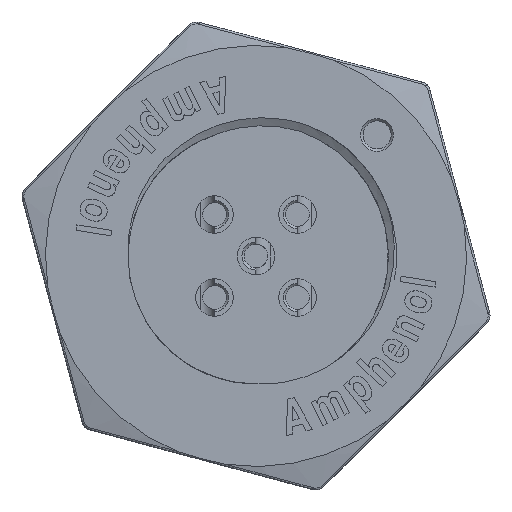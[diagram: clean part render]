
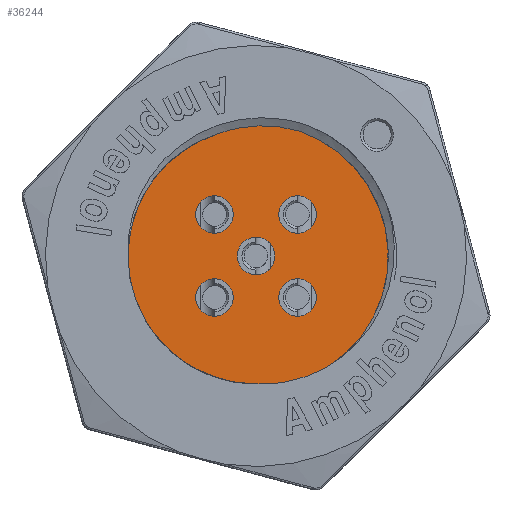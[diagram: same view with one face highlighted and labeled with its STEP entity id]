
A CAD part, left-side view. The second image highlights one B-rep face of the part: STEP entity #36244.
In plain terms, the highlighted planar face has unit normal (-1, 0, 0).
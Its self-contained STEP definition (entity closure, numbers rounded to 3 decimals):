
#10859=CARTESIAN_POINT('',(-19.8,-1.889,5.314));
#10860=CARTESIAN_POINT('',(-19.8,-1.799,5.341));
#10861=CARTESIAN_POINT('',(-19.8,-1.616,5.391));
#10862=CARTESIAN_POINT('',(-19.8,-1.339,5.452));
#10863=CARTESIAN_POINT('',(-19.8,-1.061,5.499));
#10864=CARTESIAN_POINT('',(-19.8,-0.78,5.532));
#10865=CARTESIAN_POINT('',(-19.8,-0.499,5.55));
#10866=CARTESIAN_POINT('',(-19.8,-0.218,5.554));
#10867=CARTESIAN_POINT('',(-19.8,0.063,5.544));
#10868=CARTESIAN_POINT('',(-19.8,0.342,5.52));
#10869=CARTESIAN_POINT('',(-19.8,0.619,5.482));
#10870=CARTESIAN_POINT('',(-19.8,0.893,5.43));
#10871=CARTESIAN_POINT('',(-19.8,1.164,5.364));
#10872=CARTESIAN_POINT('',(-19.8,1.431,5.285));
#10873=CARTESIAN_POINT('',(-19.8,1.605,5.223));
#10874=CARTESIAN_POINT('',(-19.8,1.691,5.19));
#11219=CARTESIAN_POINT('',(-19.8,0.,0.));
#11220=DIRECTION('',(-1.,0.,0.));
#11221=DIRECTION('',(0.,1.,0.));
#11222=AXIS2_PLACEMENT_3D('',#11219,#11220,#11221);
#11267=CARTESIAN_POINT('',(-19.8,0.,0.));
#11268=DIRECTION('',(-1.,0.,0.));
#11269=DIRECTION('',(0.,-1.,0.));
#11270=AXIS2_PLACEMENT_3D('',#11267,#11268,#11269);
#11426=CARTESIAN_POINT('',(-19.8,-1.77,1.77));
#11427=DIRECTION('',(-1.,0.,0.));
#11428=DIRECTION('',(0.,1.,0.));
#11429=AXIS2_PLACEMENT_3D('',#11426,#11427,#11428);
#11474=CARTESIAN_POINT('',(-19.8,-1.77,1.77));
#11475=DIRECTION('',(-1.,0.,0.));
#11476=DIRECTION('',(0.,-1.,0.));
#11477=AXIS2_PLACEMENT_3D('',#11474,#11475,#11476);
#11633=CARTESIAN_POINT('',(-19.8,-1.77,-1.77));
#11634=DIRECTION('',(-1.,0.,0.));
#11635=DIRECTION('',(0.,1.,0.));
#11636=AXIS2_PLACEMENT_3D('',#11633,#11634,#11635);
#11681=CARTESIAN_POINT('',(-19.8,-1.77,-1.77));
#11682=DIRECTION('',(-1.,0.,0.));
#11683=DIRECTION('',(0.,-1.,0.));
#11684=AXIS2_PLACEMENT_3D('',#11681,#11682,#11683);
#11840=CARTESIAN_POINT('',(-19.8,1.77,-1.77));
#11841=DIRECTION('',(-1.,0.,0.));
#11842=DIRECTION('',(0.,-1.,0.));
#11843=AXIS2_PLACEMENT_3D('',#11840,#11841,#11842);
#11888=CARTESIAN_POINT('',(-19.8,1.77,-1.77));
#11889=DIRECTION('',(-1.,0.,0.));
#11890=DIRECTION('',(0.,1.,0.));
#11891=AXIS2_PLACEMENT_3D('',#11888,#11889,#11890);
#12047=CARTESIAN_POINT('',(-19.8,1.77,1.77));
#12048=DIRECTION('',(-1.,0.,0.));
#12049=DIRECTION('',(0.,-1.,0.));
#12050=AXIS2_PLACEMENT_3D('',#12047,#12048,#12049);
#12095=CARTESIAN_POINT('',(-19.8,1.77,1.77));
#12096=DIRECTION('',(-1.,0.,0.));
#12097=DIRECTION('',(0.,1.,0.));
#12098=AXIS2_PLACEMENT_3D('',#12095,#12096,#12097);
#12135=CARTESIAN_POINT('',(-19.8,0.,0.));
#12136=DIRECTION('',(-1.,0.,0.));
#12137=DIRECTION('',(0.,0.565,-0.825));
#12138=AXIS2_PLACEMENT_3D('',#12135,#12136,#12137);
#12330=CARTESIAN_POINT('',(-19.8,5.193,-1.682));
#12331=CARTESIAN_POINT('',(-19.8,5.169,-1.772));
#12332=CARTESIAN_POINT('',(-19.8,5.116,-1.949));
#12333=CARTESIAN_POINT('',(-19.8,5.023,-2.212));
#12334=CARTESIAN_POINT('',(-19.8,4.917,-2.47));
#12335=CARTESIAN_POINT('',(-19.8,4.798,-2.722));
#12336=CARTESIAN_POINT('',(-19.8,4.667,-2.969));
#12337=CARTESIAN_POINT('',(-19.8,4.522,-3.209));
#12338=CARTESIAN_POINT('',(-19.8,4.365,-3.441));
#12339=CARTESIAN_POINT('',(-19.8,4.196,-3.666));
#12340=CARTESIAN_POINT('',(-19.8,4.016,-3.883));
#12341=CARTESIAN_POINT('',(-19.8,3.825,-4.09));
#12342=CARTESIAN_POINT('',(-19.8,3.623,-4.288));
#12343=CARTESIAN_POINT('',(-19.8,3.411,-4.476));
#12344=CARTESIAN_POINT('',(-19.8,3.264,-4.595));
#12345=CARTESIAN_POINT('',(-19.8,3.188,-4.652));
#14899=CARTESIAN_POINT('',(-19.8,0.,0.));
#14900=DIRECTION('',(-1.,0.,0.));
#14901=DIRECTION('',(0.,0.31,0.951));
#14902=AXIS2_PLACEMENT_3D('',#14899,#14900,#14901);
#21448=CARTESIAN_POINT('',(-19.8,-0.8,0.));
#21449=CARTESIAN_POINT('',(-19.8,0.8,0.));
#21450=VERTEX_POINT('',#21448);
#21451=VERTEX_POINT('',#21449);
#21456=CARTESIAN_POINT('',(-19.8,-2.57,1.77));
#21457=CARTESIAN_POINT('',(-19.8,-0.97,1.77));
#21458=VERTEX_POINT('',#21456);
#21459=VERTEX_POINT('',#21457);
#21464=CARTESIAN_POINT('',(-19.8,-2.57,-1.77));
#21465=CARTESIAN_POINT('',(-19.8,-0.97,-1.77));
#21466=VERTEX_POINT('',#21464);
#21467=VERTEX_POINT('',#21465);
#21472=CARTESIAN_POINT('',(-19.8,2.57,-1.77));
#21473=CARTESIAN_POINT('',(-19.8,0.97,-1.77));
#21474=VERTEX_POINT('',#21472);
#21475=VERTEX_POINT('',#21473);
#21480=CARTESIAN_POINT('',(-19.8,2.57,1.77));
#21481=CARTESIAN_POINT('',(-19.8,0.97,1.77));
#21482=VERTEX_POINT('',#21480);
#21483=VERTEX_POINT('',#21481);
#21484=VERTEX_POINT('',#10859);
#21485=VERTEX_POINT('',#10874);
#21491=VERTEX_POINT('',#12330);
#21492=VERTEX_POINT('',#12345);
#36200=CARTESIAN_POINT('',(-19.8,0.,0.));
#36201=DIRECTION('',(-1.,0.,0.));
#36202=DIRECTION('',(0.,0.,1.));
#36203=AXIS2_PLACEMENT_3D('',#36200,#36201,#36202);
#36204=PLANE('',#36203);
#36205=ORIENTED_EDGE('',*,*,#36111,.F.);
#36207=ORIENTED_EDGE('',*,*,#36206,.F.);
#36209=ORIENTED_EDGE('',*,*,#36208,.F.);
#36211=ORIENTED_EDGE('',*,*,#36210,.F.);
#36212=EDGE_LOOP('',(#36205,#36207,#36209,#36211));
#36213=FACE_OUTER_BOUND('',#36212,.F.);
#36215=ORIENTED_EDGE('',*,*,#36214,.T.);
#36217=ORIENTED_EDGE('',*,*,#36216,.T.);
#36218=EDGE_LOOP('',(#36215,#36217));
#36219=FACE_BOUND('',#36218,.F.);
#36221=ORIENTED_EDGE('',*,*,#36220,.T.);
#36223=ORIENTED_EDGE('',*,*,#36222,.T.);
#36224=EDGE_LOOP('',(#36221,#36223));
#36225=FACE_BOUND('',#36224,.F.);
#36227=ORIENTED_EDGE('',*,*,#36226,.T.);
#36229=ORIENTED_EDGE('',*,*,#36228,.T.);
#36230=EDGE_LOOP('',(#36227,#36229));
#36231=FACE_BOUND('',#36230,.F.);
#36233=ORIENTED_EDGE('',*,*,#36232,.T.);
#36235=ORIENTED_EDGE('',*,*,#36234,.T.);
#36236=EDGE_LOOP('',(#36233,#36235));
#36237=FACE_BOUND('',#36236,.F.);
#36239=ORIENTED_EDGE('',*,*,#36238,.T.);
#36241=ORIENTED_EDGE('',*,*,#36240,.T.);
#36242=EDGE_LOOP('',(#36239,#36241));
#36243=FACE_BOUND('',#36242,.F.);
#36244=ADVANCED_FACE('',(#36213,#36219,#36225,#36231,#36237,#36243),#36204,.T.);
#10875=B_SPLINE_CURVE_WITH_KNOTS('',3,(#10859,#10860,#10861,#10862,#10863,
#10864,#10865,#10866,#10867,#10868,#10869,#10870,#10871,#10872,#10873,#10874),
.UNSPECIFIED.,.F.,.F.,(4,1,1,1,1,1,1,1,1,1,1,1,1,4),(0.,0.077,
0.154,0.231,0.308,0.385,
0.462,0.538,0.615,0.692,
0.769,0.846,0.923,1.),.UNSPECIFIED.);
#11223=CIRCLE('',#11222,0.8);
#11271=CIRCLE('',#11270,0.8);
#11430=CIRCLE('',#11429,0.8);
#11478=CIRCLE('',#11477,0.8);
#11637=CIRCLE('',#11636,0.8);
#11685=CIRCLE('',#11684,0.8);
#11844=CIRCLE('',#11843,0.8);
#11892=CIRCLE('',#11891,0.8);
#12051=CIRCLE('',#12050,0.8);
#12099=CIRCLE('',#12098,0.8);
#12139=CIRCLE('',#12138,5.64);
#12346=B_SPLINE_CURVE_WITH_KNOTS('',3,(#12330,#12331,#12332,#12333,#12334,
#12335,#12336,#12337,#12338,#12339,#12340,#12341,#12342,#12343,#12344,#12345),
.UNSPECIFIED.,.F.,.F.,(4,1,1,1,1,1,1,1,1,1,1,1,1,4),(0.,0.077,
0.154,0.231,0.308,0.385,
0.462,0.538,0.615,0.692,
0.769,0.846,0.923,1.),.UNSPECIFIED.);
#14903=CIRCLE('',#14902,5.459);
#36111=EDGE_CURVE('',#21484,#21485,#10875,.T.);
#36206=EDGE_CURVE('',#21492,#21484,#12139,.T.);
#36208=EDGE_CURVE('',#21491,#21492,#12346,.T.);
#36210=EDGE_CURVE('',#21485,#21491,#14903,.T.);
#36214=EDGE_CURVE('',#21450,#21451,#11271,.T.);
#36216=EDGE_CURVE('',#21451,#21450,#11223,.T.);
#36220=EDGE_CURVE('',#21458,#21459,#11478,.T.);
#36222=EDGE_CURVE('',#21459,#21458,#11430,.T.);
#36226=EDGE_CURVE('',#21466,#21467,#11685,.T.);
#36228=EDGE_CURVE('',#21467,#21466,#11637,.T.);
#36232=EDGE_CURVE('',#21474,#21475,#11892,.T.);
#36234=EDGE_CURVE('',#21475,#21474,#11844,.T.);
#36238=EDGE_CURVE('',#21482,#21483,#12099,.T.);
#36240=EDGE_CURVE('',#21483,#21482,#12051,.T.);
